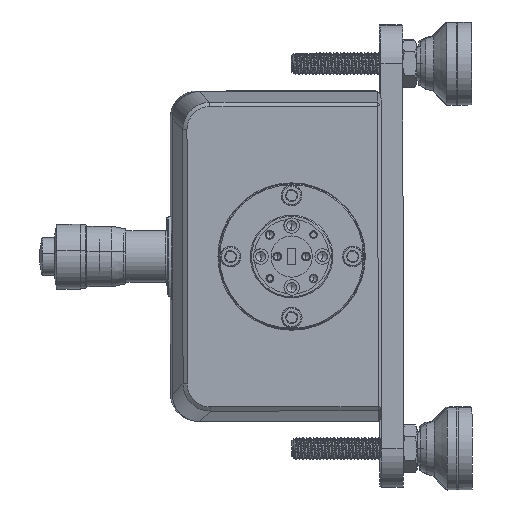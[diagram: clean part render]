
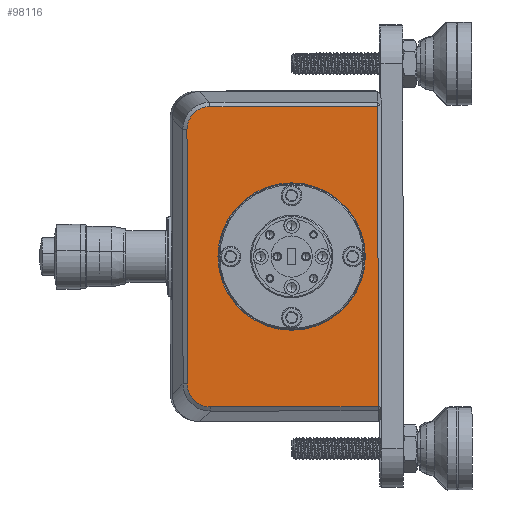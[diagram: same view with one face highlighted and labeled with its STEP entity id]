
A CAD part, left-side view. The second image highlights one B-rep face of the part: STEP entity #98116.
In plain terms, the highlighted planar face has unit normal (-1, -0.002, -0.001).
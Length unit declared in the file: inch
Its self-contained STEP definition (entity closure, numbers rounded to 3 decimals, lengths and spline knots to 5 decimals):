
#3874 = CARTESIAN_POINT ( 'NONE',  ( -3.34512, -6.6915, -0.05777 ) ) ;
#6417 = AXIS2_PLACEMENT_3D ( 'NONE', #135041, #91092, #135782 ) ;
#9115 = DIRECTION ( 'NONE',  ( -0.001, 0.001, 1. ) ) ;
#9868 = CARTESIAN_POINT ( 'NONE',  ( -3.34302, -7.61697, -1.31819 ) ) ;
#12576 = CARTESIAN_POINT ( 'NONE',  ( -3.34389, -6.66843, -2.50307 ) ) ;
#13722 = ORIENTED_EDGE ( 'NONE', *, *, #103436, .T. ) ;
#13733 = ORIENTED_EDGE ( 'NONE', *, *, #104894, .T. ) ;
#18973 = CARTESIAN_POINT ( 'NONE',  ( -3.34498, -6.81907, 0.04042 ) ) ;
#22397 = AXIS2_PLACEMENT_3D ( 'NONE', #73869, #128476, #108032 ) ;
#22645 = DIRECTION ( 'NONE',  ( -1., -0.002, -0.001 ) ) ;
#23210 = ORIENTED_EDGE ( 'NONE', *, *, #93483, .F. ) ;
#25573 = LINE ( 'NONE', #60375, #112247 ) ;
#26028 = EDGE_LOOP ( 'NONE', ( #13733, #13722, #84483, #82994, #145091, #101357 ) ) ;
#28125 = EDGE_CURVE ( 'NONE', #131242, #126206, #62071, .T. ) ;
#29530 = CARTESIAN_POINT ( 'NONE',  ( -3.34489, -6.87405, 0.04592 ) ) ;
#31986 = CARTESIAN_POINT ( 'NONE',  ( -3.3418, -8.40197, -1.31717 ) ) ;
#34501 = CIRCLE ( 'NONE', #22397, 0.67 ) ;
#35215 = CARTESIAN_POINT ( 'NONE',  ( -3.34365, -6.77209, -2.65813 ) ) ;
#36796 = CARTESIAN_POINT ( 'NONE',  ( -3.34347, -6.87759, -2.68423 ) ) ;
#37798 = EDGE_CURVE ( 'NONE', #143094, #113916, #74624, .T. ) ;
#38762 = CARTESIAN_POINT ( 'NONE',  ( -3.34391, -6.6684, -2.47558 ) ) ;
#39360 = VERTEX_POINT ( 'NONE', #118446 ) ;
#40121 = CARTESIAN_POINT ( 'NONE',  ( -3.34494, -6.84656, 0.04589 ) ) ;
#40479 = EDGE_LOOP ( 'NONE', ( #23210, #104776 ) ) ;
#41404 = DIRECTION ( 'NONE',  ( 0.001, -0.001, -1. ) ) ;
#46607 = CARTESIAN_POINT ( 'NONE',  ( -3.34377, -6.71028, -2.60422 ) ) ;
#50472 = LINE ( 'NONE', #96751, #81792 ) ;
#50837 = CARTESIAN_POINT ( 'NONE',  ( -3.34356, -6.82259, -2.67887 ) ) ;
#55865 = EDGE_CURVE ( 'NONE', #148602, #143094, #25573, .T. ) ;
#60375 = CARTESIAN_POINT ( 'NONE',  ( -3.34394, -7.4802, 0.04671 ) ) ;
#61885 = CARTESIAN_POINT ( 'NONE',  ( -3.34511, -6.6654, -0.16327 ) ) ;
#62071 = CIRCLE ( 'NONE', #93545, 0.67 ) ;
#62109 = DIRECTION ( 'NONE',  ( 0.002, -1., 0.001 ) ) ;
#62161 = CARTESIAN_POINT ( 'NONE',  ( -3.34381, -6.69476, -2.58101 ) ) ;
#62909 = CARTESIAN_POINT ( 'NONE',  ( -3.34351, -6.85004, -2.68427 ) ) ;
#64831 = EDGE_CURVE ( 'NONE', #129902, #148602, #76633, .T. ) ;
#69640 = VECTOR ( 'NONE', #134990, 39.37008 ) ;
#70294 = DIRECTION ( 'NONE',  ( -0.002, 1., -0.001 ) ) ;
#70821 = EDGE_CURVE ( 'NONE', #113916, #39360, #50472, .T. ) ;
#73472 = CARTESIAN_POINT ( 'NONE',  ( -3.34511, -6.70695, -0.03451 ) ) ;
#73869 = CARTESIAN_POINT ( 'NONE',  ( -3.34302, -7.61697, -1.31819 ) ) ;
#74624 = B_SPLINE_CURVE_WITH_KNOTS ( 'NONE', 3,
 ( #29530, #40121, #18973, #87801, #119699, #73472, #3874, #84840, #134010, #131054 ),
 .UNSPECIFIED., .F., .F.,
 ( 4, 2, 2, 2, 4 ),
 ( 0., 0.25, 0.5, 0.75, 1. ),
 .UNSPECIFIED. ) ;
#76633 = LINE ( 'NONE', #31986, #69640 ) ;
#77524 = CARTESIAN_POINT ( 'NONE',  ( -3.34337, -7.6161, -0.64819 ) ) ;
#78926 = FACE_OUTER_BOUND ( 'NONE', #26028, .T. ) ;
#81402 = CARTESIAN_POINT ( 'NONE',  ( -3.34347, -6.87759, -2.68423 ) ) ;
#81792 = VECTOR ( 'NONE', #41404, 39.37008 ) ;
#82140 = CARTESIAN_POINT ( 'NONE',  ( -3.34369, -6.74883, -2.64268 ) ) ;
#82994 = ORIENTED_EDGE ( 'NONE', *, *, #55865, .T. ) ;
#83413 = LINE ( 'NONE', #129633, #129026 ) ;
#84483 = ORIENTED_EDGE ( 'NONE', *, *, #64831, .T. ) ;
#84840 = CARTESIAN_POINT ( 'NONE',  ( -3.34513, -6.67076, -0.10827 ) ) ;
#87801 = CARTESIAN_POINT ( 'NONE',  ( -3.34504, -6.76862, 0.01956 ) ) ;
#91092 = DIRECTION ( 'NONE',  ( 1., 0.002, 0.001 ) ) ;
#93483 = EDGE_CURVE ( 'NONE', #126206, #131242, #34501, .T. ) ;
#93545 = AXIS2_PLACEMENT_3D ( 'NONE', #9868, #22645, #9115 ) ;
#96751 = CARTESIAN_POINT ( 'NONE',  ( -3.34451, -6.6669, -1.31942 ) ) ;
#98116 = ADVANCED_FACE ( 'NONE', ( #78926, #148571 ), #122976, .F. ) ;
#99599 = CARTESIAN_POINT ( 'NONE',  ( -3.34109, -8.40374, -2.68225 ) ) ;
#101357 = ORIENTED_EDGE ( 'NONE', *, *, #70821, .T. ) ;
#103436 = EDGE_CURVE ( 'NONE', #110712, #129902, #83413, .T. ) ;
#103492 = B_SPLINE_CURVE_WITH_KNOTS ( 'NONE', 3,
 ( #38762, #12576, #139707, #62161, #46607, #82140, #35215, #50837, #62909, #81402 ),
 .UNSPECIFIED., .F., .F.,
 ( 4, 2, 2, 2, 4 ),
 ( 0., 0.25, 0.5, 0.75, 1. ),
 .UNSPECIFIED. ) ;
#104161 = CARTESIAN_POINT ( 'NONE',  ( -3.34489, -6.87405, 0.04592 ) ) ;
#104776 = ORIENTED_EDGE ( 'NONE', *, *, #28125, .F. ) ;
#104894 = EDGE_CURVE ( 'NONE', #39360, #110712, #103492, .T. ) ;
#108032 = DIRECTION ( 'NONE',  ( -0.001, 0.001, 1. ) ) ;
#110712 = VERTEX_POINT ( 'NONE', #36796 ) ;
#112247 = VECTOR ( 'NONE', #70294, 39.37008 ) ;
#113916 = VERTEX_POINT ( 'NONE', #61885 ) ;
#114893 = CARTESIAN_POINT ( 'NONE',  ( -3.34267, -7.61784, -1.98819 ) ) ;
#118446 = CARTESIAN_POINT ( 'NONE',  ( -3.34391, -6.6684, -2.47558 ) ) ;
#119699 = CARTESIAN_POINT ( 'NONE',  ( -3.34507, -6.74541, 0.00403 ) ) ;
#122976 = PLANE ( 'NONE',  #6417 ) ;
#126206 = VERTEX_POINT ( 'NONE', #77524 ) ;
#128476 = DIRECTION ( 'NONE',  ( -1., -0.002, -0.001 ) ) ;
#129026 = VECTOR ( 'NONE', #62109, 39.37008 ) ;
#129633 = CARTESIAN_POINT ( 'NONE',  ( -3.34252, -7.48374, -2.68344 ) ) ;
#129902 = VERTEX_POINT ( 'NONE', #99599 ) ;
#131054 = CARTESIAN_POINT ( 'NONE',  ( -3.34511, -6.6654, -0.16327 ) ) ;
#131242 = VERTEX_POINT ( 'NONE', #114893 ) ;
#134010 = CARTESIAN_POINT ( 'NONE',  ( -3.34512, -6.66536, -0.13572 ) ) ;
#134990 = DIRECTION ( 'NONE',  ( -0.001, 0.001, 1. ) ) ;
#135041 = CARTESIAN_POINT ( 'NONE',  ( -3.34323, -7.48197, -1.31837 ) ) ;
#135782 = DIRECTION ( 'NONE',  ( 0.001, -0.001, -1. ) ) ;
#136740 = CARTESIAN_POINT ( 'NONE',  ( -3.34251, -8.4002, 0.0479 ) ) ;
#139707 = CARTESIAN_POINT ( 'NONE',  ( -3.34387, -6.6739, -2.53056 ) ) ;
#143094 = VERTEX_POINT ( 'NONE', #104161 ) ;
#145091 = ORIENTED_EDGE ( 'NONE', *, *, #37798, .T. ) ;
#148571 = FACE_BOUND ( 'NONE', #40479, .T. ) ;
#148602 = VERTEX_POINT ( 'NONE', #136740 ) ;
